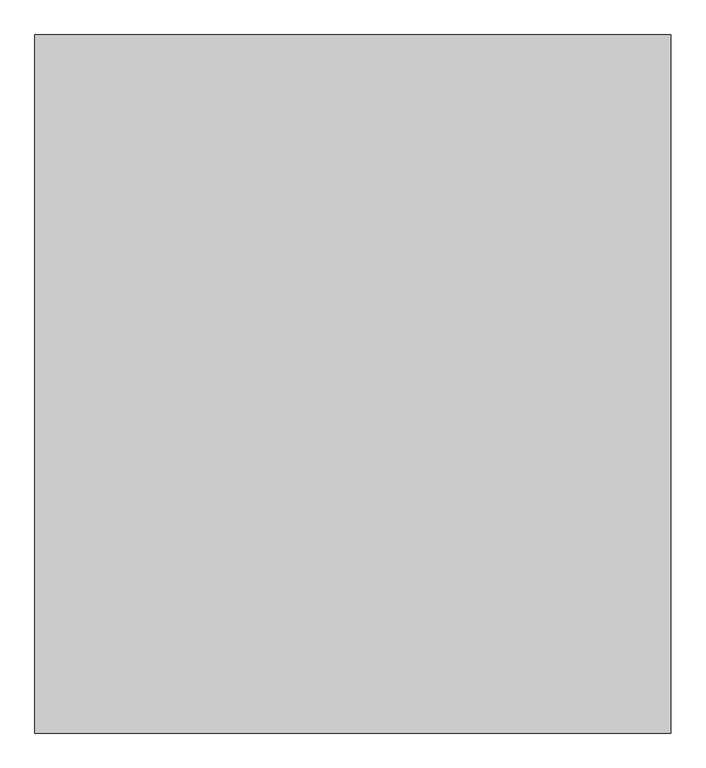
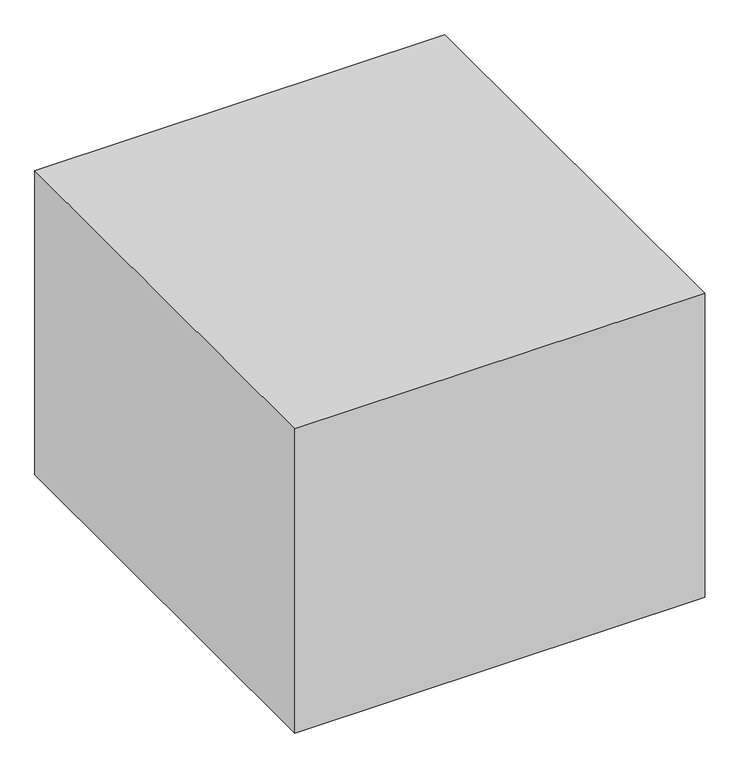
"""IFC4 building model written with IfcOpenShell, lengths in millimetres: furniture geometry, BIMHealth-Couch_Examination_Paper_Towel-LOD2A-v1 : BIMHealth-Couch_Examination_Paper_Towel-LOD2A-v1."""

from ifc_helpers import new_model, si_unit, point, frame, frame_2d, origin, origin_with_axes, place, context, project, spatial, polyline, circle_curve, trimmed, segment, composite_curve, outline, extrude, faceted_brep, source, transform, mapped, element, save


def furniture_40be970f(model_context):
    return source(origin(), model_context, "Body", "SolidModel", [
        extrude(outline(composite_curve([segment(trimmed(circle_curve(frame_2d((-2002.5, 677.0351989)), 55.0), [point((-2057.5, 677.0351989))], [point((-1947.5, 677.0351989))], False, "CARTESIAN"), True, "CONTINUOUS"), segment(trimmed(circle_curve(frame_2d((-2002.5, 677.0351989)), 55.0), [point((-1947.5, 677.0351989))], [point((-2057.5, 677.0351989))], False, "CARTESIAN"), True, "CONTINUOUS")], self_intersect=False)), frame((117.8018428, 0.0, 0.0), z_axis=(1.0, 0.0, 0.0), x_axis=(0.0, 1.0, 0.0)), (0.0, 0.0, 1.0), 411.6753536),
        extrude(outline(composite_curve([segment(polyline([(185.0, -2010.0), (115.0, -2010.0)]), True, "CONTINUOUS"), segment(trimmed(circle_curve(frame_2d((115.0, -1960.0)), 50.0), [point((115.0, -2010.0))], [point((115.0, -1910.0))], False, "CARTESIAN"), True, "CONTINUOUS"), segment(polyline([(115.0, -1910.0), (210.0, -1910.0), (210.0, -1900.0), (225.0, -1900.0), (225.0, -1910.0), (425.0, -1910.0), (425.0, -1900.0), (440.0, -1900.0), (440.0, -1910.0), (535.0, -1910.0)]), True, "CONTINUOUS"), segment(trimmed(circle_curve(frame_2d((535.0, -1960.0)), 50.0), [point((535.0, -1910.0))], [point((535.0, -2010.0))], False, "CARTESIAN"), True, "CONTINUOUS"), segment(polyline([(535.0, -2010.0), (465.0, -2010.0), (465.0, -1995.0), (535.0, -1995.0)]), True, "CONTINUOUS"), segment(trimmed(circle_curve(frame_2d((535.0, -1960.0)), 35.0), [point((535.0, -1995.0))], [point((535.0, -1925.0))], True, "CARTESIAN"), True, "CONTINUOUS"), segment(polyline([(535.0, -1925.0), (115.0, -1925.0)]), True, "CONTINUOUS"), segment(trimmed(circle_curve(frame_2d((115.0, -1960.0)), 35.0), [point((115.0, -1925.0))], [point((115.0, -1995.0))], True, "CARTESIAN"), True, "CONTINUOUS"), segment(polyline([(115.0, -1995.0), (185.0, -1995.0), (185.0, -2010.0)]), True, "CONTINUOUS")], self_intersect=False)), frame((0.0, 0.0, 669.5318641), z_axis=(0.0, 0.0, 1.0), x_axis=(1.0, 0.0, 0.0)), (0.0, 0.0, 1.0), 15.0066695),
        extrude(outline(polyline([(60.0220189, -32.8869719), (60.0220189, -13.1946642), (67.536442, -13.1946642), (71.2167304, -13.7739911), (73.3898073, -15.5552411), (74.175865, -18.0744719), (73.5148073, -20.3749527), (71.5172112, -22.1177411), (73.942692, -23.9542796), (74.7912496, -27.0167796), (74.2119227, -29.6634142), (72.7768266, -31.5480296), (70.6349996, -32.5480296), (67.4787496, -32.8869719), (60.0220189, -32.8869719)]), holes=[polyline([(62.4835573, -21.1946642), (66.9787496, -21.1946642), (69.6037496, -20.9831257), (71.1830766, -20.0720681), (71.7143266, -18.4687027), (71.2191343, -16.8629334), (69.800865, -15.9134142), (66.6374035, -15.6562027), (62.4835573, -15.6562027), (62.4835573, -21.1946642)]), polyline([(62.4835573, -30.4254334), (67.5316343, -30.4254334), (69.3585573, -30.3292796), (70.9042304, -29.7932219), (72.3297112, -27.0408181), (71.8585573, -25.1273565), (70.332115, -23.9855296), (67.2912496, -23.6562027), (62.4835573, -23.6562027), (62.4835573, -30.4254334)])]), frame((0.0, 0.0, 765.0), z_axis=(0.0, 0.0, 1.0), x_axis=(1.0, 0.0, 0.0)), (0.0, 0.0, 1.0), 2.0),
        extrude(outline(polyline([(78.4835573, -32.8869719), (78.4835573, -13.1946642), (80.9450958, -13.1946642), (80.9450958, -32.8869719), (78.4835573, -32.8869719)])), frame((0.0, 0.0, 765.0), z_axis=(0.0, 0.0, 1.0), x_axis=(1.0, 0.0, 0.0)), (0.0, 0.0, 1.0), 2.0),
        extrude(outline(polyline([(85.8681727, -32.8869719), (85.8681727, -13.1946642), (90.0893266, -13.1946642), (94.1277881, -27.0744719), (94.9450958, -29.9735104), (95.8249035, -26.8340873), (99.786442, -13.1946642), (104.0220189, -13.1946642), (104.0220189, -32.8869719), (101.5604804, -32.8869719), (101.5604804, -15.6562027), (96.613365, -32.8869719), (93.2816343, -32.8869719), (88.3297112, -15.6562027), (88.3297112, -32.8869719), (85.8681727, -32.8869719)])), frame((0.0, 0.0, 765.0), z_axis=(0.0, 0.0, 1.0), x_axis=(1.0, 0.0, 0.0)), (0.0, 0.0, 1.0), 2.0),
        extrude(outline(polyline([(108.3297112, -32.8869719), (108.3297112, -13.1946642), (110.7912496, -13.1946642), (110.7912496, -21.1946642), (121.2527881, -21.1946642), (121.2527881, -13.1946642), (123.7143266, -13.1946642), (123.7143266, -32.8869719), (121.2527881, -32.8869719), (121.2527881, -23.6562027), (110.7912496, -23.6562027), (110.7912496, -32.8869719), (108.3297112, -32.8869719)])), frame((0.0, 0.0, 765.0), z_axis=(0.0, 0.0, 1.0), x_axis=(1.0, 0.0, 0.0)), (0.0, 0.0, 1.0), 2.0),
        extrude(outline(polyline([(137.8393266, -28.5792796), (140.2527881, -28.8869719), (137.9955766, -32.0648565), (133.7912496, -33.1946642), (128.6806727, -31.245145), (126.7912496, -25.776395), (128.6999035, -20.1273565), (133.6518266, -18.1177411), (138.4619227, -20.1225488), (140.3297112, -25.7619719), (129.2527881, -26.4254334), (130.6686535, -29.6225488), (133.8393266, -30.7331257), (136.2527881, -30.2187027), (137.8393266, -28.5792796)]), holes=[polyline([(129.2527881, -23.963895), (137.8681727, -23.963895), (136.8825958, -21.7331257), (133.6422112, -20.5792796), (130.6109612, -21.4999527), (129.2527881, -23.963895)])]), frame((0.0, 0.0, 765.0), z_axis=(0.0, 0.0, 1.0), x_axis=(1.0, 0.0, 0.0)), (0.0, 0.0, 1.0), 2.0),
        extrude(outline(polyline([(152.0220189, -31.0408181), (149.6349996, -32.7090873), (146.9979804, -33.1946642), (143.4234612, -32.026395), (142.175865, -29.0408181), (142.6470189, -27.0937027), (143.8849996, -25.6802411), (145.6085573, -24.8725488), (147.738365, -24.5023565), (152.0075958, -23.6562027), (151.3441343, -21.2908181), (148.6229804, -20.5792796), (146.1325958, -21.0528373), (144.9450958, -22.7331257), (142.4835573, -22.4254334), (143.5484612, -20.0215873), (145.692692, -18.6129334), (148.9402881, -18.1177411), (151.9234612, -18.5552411), (153.6085573, -19.6537988), (154.363365, -21.3244719), (154.4835573, -23.4783181), (154.4835573, -26.5408181), (154.6085573, -30.8172604), (155.098942, -32.8869719), (152.6374035, -32.8869719), (152.0220189, -31.0408181)]), holes=[polyline([(152.0148073, -26.4662988), (148.050865, -26.8725488), (145.9330766, -27.2715873), (147.5220189, -30.7331257), (150.0124035, -30.1441834), (151.6181727, -28.7187027), (152.0148073, -26.4662988)])]), frame((0.0, 0.0, 765.0), z_axis=(0.0, 0.0, 1.0), x_axis=(1.0, 0.0, 0.0)), (0.0, 0.0, 1.0), 2.0),
        extrude(outline(polyline([(157.8681727, -32.8869719), (157.8681727, -13.1946642), (160.3297112, -13.1946642), (160.3297112, -32.8869719), (157.8681727, -32.8869719)])), frame((0.0, 0.0, 765.0), z_axis=(0.0, 0.0, 1.0), x_axis=(1.0, 0.0, 0.0)), (0.0, 0.0, 1.0), 2.0),
        extrude(outline(polyline([(168.0220189, -29.8412988), (169.5604804, -32.9590873), (167.7191343, -33.1946642), (165.6566343, -32.7860104), (164.3297112, -28.9206257), (164.3297112, -20.8869719), (162.4835573, -20.8869719), (162.4835573, -18.4254334), (164.3297112, -18.4254334), (164.3297112, -14.9110104), (166.7912496, -13.463895), (166.7912496, -18.4254334), (169.2527881, -18.4254334), (169.2527881, -20.8869719), (166.7912496, -20.8869719), (168.0220189, -29.8412988)])), frame((0.0, 0.0, 765.0), z_axis=(0.0, 0.0, 1.0), x_axis=(1.0, 0.0, 0.0)), (0.0, 0.0, 1.0), 2.0),
        extrude(outline(polyline([(171.7143266, -32.8869719), (171.7143266, -13.1946642), (174.175865, -13.1946642), (174.175865, -20.4350488), (178.4595189, -18.1177411), (181.223942, -18.7499527), (182.9018266, -20.4975488), (183.4066343, -23.7331257), (183.4066343, -32.8869719), (180.9450958, -32.8869719), (180.9450958, -23.9879334), (180.161442, -21.3917796), (177.9402881, -20.5792796), (175.9234612, -21.1273565), (174.5773073, -22.6129334), (174.175865, -25.2042796), (174.175865, -32.8869719), (171.7143266, -32.8869719)])), frame((0.0, 0.0, 765.0), z_axis=(0.0, 0.0, 1.0), x_axis=(1.0, 0.0, 0.0)), (0.0, 0.0, 1.0), 2.0),
        faceted_brep([(0.0, 0.0, 0.0), (50.0, 0.0, 0.0), (50.0, -50.0, 0.0), (0.0, -50.0, 0.0), (0.0, 0.0, 700.0), (650.0, 0.0, 700.0), (650.0, 0.0, 0.0), (600.0, 0.0, 0.0), (600.0, 0.0, 125.0), (50.0, 0.0, 125.0), (600.0, 0.0, 650.0), (50.0, 0.0, 650.0), (50.0, 0.0, 175.0), (600.0, 0.0, 175.0), (50.0, -50.0, 125.0), (50.0, -50.0, 650.0), (50.0, -50.0, 175.0), (600.0, -50.0, 125.0), (600.0, -50.0, 0.0), (650.0, -50.0, 0.0), (650.0, -50.0, 650.0), (600.0, -50.0, 650.0), (600.0, -50.0, 175.0), (0.0, -50.0, 650.0), (310.0, -50.0, 165.0), (340.0, -50.0, 165.0), (340.0, -50.0, 135.0), (310.0, -50.0, 135.0), (0.0, -1850.0, 650.0), (0.0, -1850.0, 0.0), (0.0, -1900.0, 0.0), (0.0, -1900.0, 700.0), (650.0, -1900.0, 700.0), (50.0, -50.0, 700.0), (600.0, -50.0, 700.0), (600.0, -1850.0, 700.0), (50.0, -1850.0, 700.0), (50.0, -1850.0, 650.0), (600.0, -1850.0, 650.0), (600.0, -1900.0, 650.0), (50.0, -1900.0, 650.0), (650.0, -1850.0, 650.0), (650.0, -1900.0, 0.0), (650.0, -1850.0, 0.0), (50.0, -1900.0, 0.0), (50.0, -1900.0, 125.0), (600.0, -1900.0, 125.0), (600.0, -1900.0, 0.0), (600.0, -1900.0, 175.0), (50.0, -1900.0, 175.0), (310.0, -1850.0, 165.0), (340.0, -1850.0, 165.0), (340.0, -1850.0, 135.0), (310.0, -1850.0, 135.0), (600.0, -1850.0, 175.0), (50.0, -1850.0, 175.0), (50.0, -1850.0, 125.0), (600.0, -1850.0, 125.0), (600.0, -1850.0, 0.0), (50.0, -1850.0, 0.0)], [[[0, 1, 2, 3]], [[1, 0, 4, 5, 6, 7, 8, 9], [10, 11, 12, 13]], [[2, 1, 9, 14]], [[11, 15, 16, 12]], [[3, 2, 14, 17, 18, 19, 20, 21, 22, 16, 15, 23], [24, 25, 26, 27]], [[0, 3, 23, 28, 29, 30, 31, 4]], [[4, 31, 32, 5], [33, 34, 35, 36]], [[15, 37, 28, 23]], [[37, 38, 39, 40]], [[38, 21, 20, 41]], [[21, 15, 11, 10]], [[5, 32, 42, 43, 41, 20, 19, 6]], [[32, 31, 30, 44, 45, 46, 47, 42], [48, 49, 40, 39]], [[34, 33, 15, 21]], [[35, 34, 21, 38]], [[36, 35, 38, 37]], [[33, 36, 37, 15]], [[7, 6, 19, 18]], [[21, 10, 13, 22]], [[7, 18, 17, 8]], [[16, 22, 13, 12]], [[9, 8, 17, 14]], [[24, 50, 51, 25]], [[26, 52, 53, 27]], [[25, 51, 52, 26]], [[50, 24, 27, 53]], [[49, 48, 54, 55]], [[56, 57, 46, 45]], [[55, 54, 38, 41, 43, 58, 57, 56, 59, 29, 28, 37], [51, 50, 53, 52]], [[58, 43, 42, 47]], [[48, 39, 38, 54]], [[58, 47, 46, 57]], [[29, 59, 44, 30]], [[40, 49, 55, 37]], [[44, 59, 56, 45]]]),
        extrude(outline(composite_curve([segment(trimmed(circle_curve(frame_2d((600.0, -50.0)), 50.0), [point((600.0, 0.0))], [point((650.0, -50.0))], False, "CARTESIAN"), True, "CONTINUOUS"), segment(polyline([(650.0, -50.0), (650.0, -640.0)]), True, "CONTINUOUS"), segment(trimmed(circle_curve(frame_2d((600.0, -640.0)), 50.0), [point((650.0, -640.0))], [point((600.0, -690.0))], False, "CARTESIAN"), True, "CONTINUOUS"), segment(polyline([(600.0, -690.0), (50.0, -690.0)]), True, "CONTINUOUS"), segment(trimmed(circle_curve(frame_2d((50.0, -640.0)), 50.0), [point((50.0, -690.0))], [point((0.0, -640.0))], False, "CARTESIAN"), True, "CONTINUOUS"), segment(polyline([(0.0, -640.0), (0.0, -50.0)]), True, "CONTINUOUS"), segment(trimmed(circle_curve(frame_2d((50.0, -50.0)), 50.0), [point((0.0, -50.0))], [point((50.0, 0.0))], False, "CARTESIAN"), True, "CONTINUOUS"), segment(polyline([(50.0, 0.0), (600.0, 0.0)]), True, "CONTINUOUS")], self_intersect=False)), frame((0.0, 0.0, 700.0), z_axis=(0.0, 0.0, 1.0), x_axis=(1.0, 0.0, 0.0)), (0.0, 0.0, 1.0), 65.0),
        extrude(outline(composite_curve([segment(trimmed(circle_curve(frame_2d((600.0, -750.0)), 50.0), [point((600.0, -700.0))], [point((650.0, -750.0))], False, "CARTESIAN"), True, "CONTINUOUS"), segment(polyline([(650.0, -750.0), (650.0, -1850.0)]), True, "CONTINUOUS"), segment(trimmed(circle_curve(frame_2d((600.0, -1850.0)), 50.0), [point((650.0, -1850.0))], [point((600.0, -1900.0))], False, "CARTESIAN"), True, "CONTINUOUS"), segment(polyline([(600.0, -1900.0), (50.0, -1900.0)]), True, "CONTINUOUS"), segment(trimmed(circle_curve(frame_2d((50.0, -1850.0)), 50.0), [point((50.0, -1900.0))], [point((0.0, -1850.0))], False, "CARTESIAN"), True, "CONTINUOUS"), segment(polyline([(0.0, -1850.0), (0.0, -750.0)]), True, "CONTINUOUS"), segment(trimmed(circle_curve(frame_2d((50.0, -750.0)), 50.0), [point((0.0, -750.0))], [point((50.0, -700.0))], False, "CARTESIAN"), True, "CONTINUOUS"), segment(polyline([(50.0, -700.0), (600.0, -700.0)]), True, "CONTINUOUS")], self_intersect=False)), frame((0.0, 0.0, 700.0), z_axis=(0.0, 0.0, 1.0), x_axis=(1.0, 0.0, 0.0)), (0.0, 0.0, 1.0), 65.0),
        extrude(outline(polyline([(1650.0, 100.0), (1650.0, -2700.0), (-900.0, -2700.0), (-900.0, 100.0), (1650.0, 100.0)])), origin_with_axes(), (0.0, 0.0, 1.0), 2000.0),
    ])


if __name__ == "__main__":
    model = new_model("IFC4")
    model_context = context("Model", 3, world=origin())
    ifc_project = project(units=[si_unit("LENGTHUNIT", "METRE", prefix="MILLI")], contexts=[model_context])
    site = spatial("IfcSite", under=ifc_project)
    building = spatial("IfcBuilding", under=site)
    placement = place(None, origin())
    furniture_shape = furniture_40be970f(model_context)
    element("IfcFurniture", 1, ObjectType="BIMHealth-Couch_Examination_Paper_Towel-LOD2A-v1 : BIMHealth-Couch_Examination_Paper_Towel-LOD2A-v1", at=placement, inside=building, context=model_context, shape_type="MappedRepresentation", body=[
        mapped(furniture_shape, transform((0.0, 0.0, 0.0), x_axis=(1.0, 0.0, 0.0), y_axis=(0.0, 1.0, 0.0), z_axis=(0.0, 0.0, 1.0))),
    ])
    save(model, "model.ifc")
